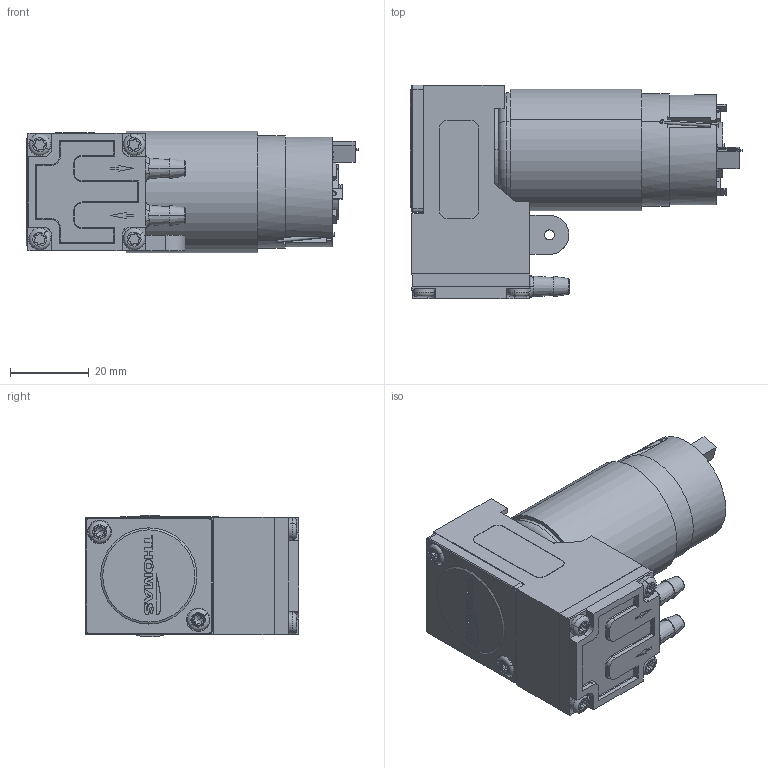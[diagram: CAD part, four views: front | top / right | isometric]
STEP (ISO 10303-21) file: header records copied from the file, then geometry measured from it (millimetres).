
FILE_DESCRIPTION (( 'STEP AP214' ), '1' );
FILE_NAME ('14100105-18.STEP', '2019-08-28T07:39:53', ( '' ), ( '' ), 'SwSTEP 2.0', 'SolidWorks 2018', '' );
FILE_SCHEMA (( 'AUTOMOTIVE_DESIGN' ));
Length unit declared in the file: millimetre
Products named in the file (1): 14100105-18
Bounding box: 84.55 x 54.4 x 31 mm (x, y, z)
Volume: 80191.4 mm3; surface area: 15688.8 mm2
Topology: 1 solids, 1 shells, 1136 faces, 3201 edges, 2114 vertices
Faces by surface type: plane 785, cylinder 176, cone 65, bspline 53, torus 49, sphere 8
Entity records: 38741 total; most frequent: CARTESIAN_POINT 9625, ORIENTED_EDGE 6386, DIRECTION 5572, EDGE_CURVE 3193, VECTOR 2452, LINE 2452, VERTEX_POINT 2114, AXIS2_PLACEMENT_3D 1560
